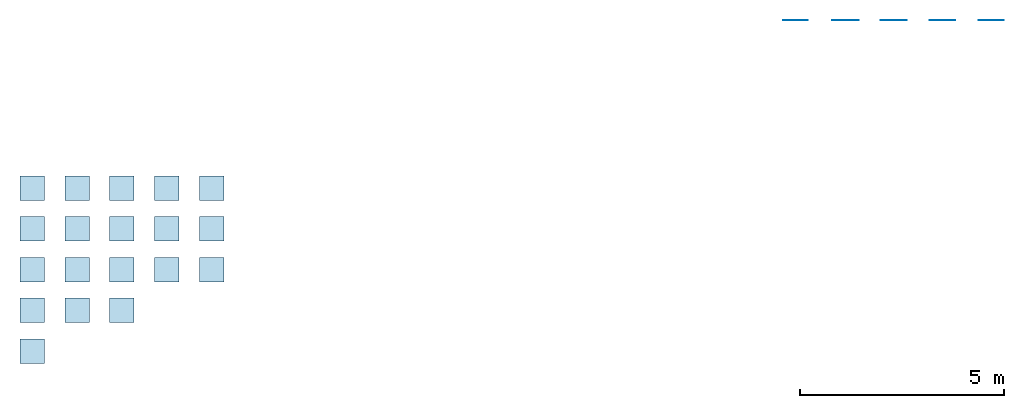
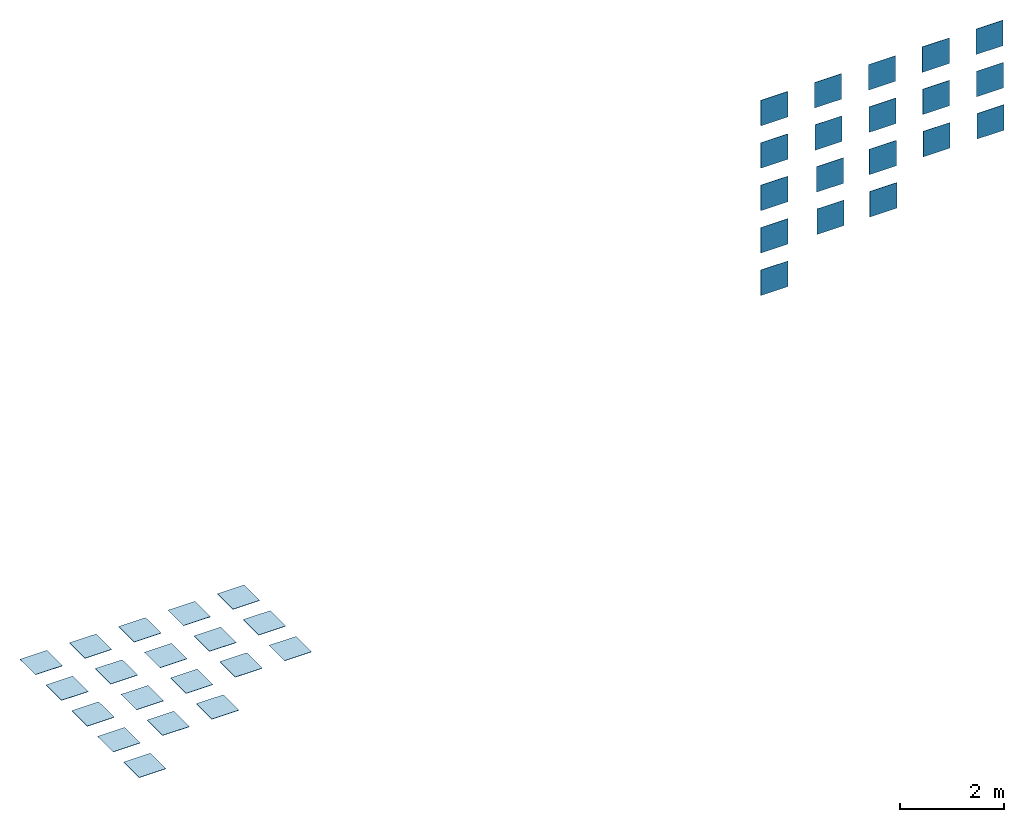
# One storey: 19 slabs, 19 walls.
"""IFC2X3 building model written with IfcOpenShell, lengths in metres."""

import ifcopenshell
import ifcopenshell.guid

model = None  # the IFC model being written
_history = None  # IfcOwnerHistory: only IFC2X3 demands one
_inside = {}  # id of a spatial element -> (the spatial element, [elements in it])
_under = {}  # id of a project, library or spatial element -> (it, [spatial elements below it])
_declared = {}  # id of a project -> (the project, [libraries it declares])
_typed = {}  # id of a type object -> (the type object, [elements of that type])
_made_of = {}  # id of a material, layer set ... -> (it, [elements and type objects made of it])


def new_model(schema):
    """Start an empty IFC model of exactly this schema.

    Asked for "IFC4X3", IfcOpenShell would pick the latest addendum, in which some entities
    have other attributes; the version numbers below select the first issue.
    IFC2X3 requires an IfcOwnerHistory on every rooted entity: one is made here for all.
    """
    global model, _history
    if schema == "IFC4X3":
        model = ifcopenshell.file(schema_version=(4, 3, 0, 0))
    else:
        model = ifcopenshell.file(schema=schema)
    _inside.clear()
    _under.clear()
    _declared.clear()
    _typed.clear()
    _made_of.clear()
    _history = None
    if model.schema == "IFC2X3":
        org = make("IfcOrganization", Name="unknown")
        user = make(
            "IfcPersonAndOrganization",
            ThePerson=make("IfcPerson", FamilyName="unknown"),
            TheOrganization=org,
        )
        app = make(
            "IfcApplication",
            ApplicationDeveloper=org,
            Version="unknown",
            ApplicationFullName="unknown",
            ApplicationIdentifier="unknown",
        )
        _history = make(
            "IfcOwnerHistory",
            OwningUser=user,
            OwningApplication=app,
            ChangeAction="ADDED",
            CreationDate=0,
        )
    return model


def make(cls, **values):
    """One entity of the class cls with the attributes given. An attribute that is None is left unset."""
    return model.create_entity(
        cls, **{name: value for name, value in values.items() if value is not None}
    )


def entity(cls, *values):
    """Any entity or typed value of the class cls, its attributes in the order of the schema. None: left unset."""
    e = model.create_entity(cls)
    for i, value in enumerate(values):
        if value is not None:
            e[i] = value
    return e


def rooted(cls, **values):
    """An entity with a GlobalId (a new one), such as an element, a storey or a relation."""
    return make(cls, GlobalId=ifcopenshell.guid.new(), OwnerHistory=_history, **values)


def si_unit(unit_type, name, prefix=None):
    """IfcSIUnit, for example si_unit("LENGTHUNIT", "METRE", prefix="MILLI")."""
    return make("IfcSIUnit", UnitType=unit_type, Prefix=prefix, Name=name)


def converted_unit(unit_type, name, factor, base, dimensions=None, offset=None):
    """IfcConversionBasedUnit, such as the inch: factor (a typed value) times the base unit."""
    return make(
        "IfcConversionBasedUnit"
        if offset is None
        else "IfcConversionBasedUnitWithOffset",
        ConversionOffset=offset,
        Dimensions=None
        if dimensions is None
        else entity("IfcDimensionalExponents", *dimensions),
        UnitType=unit_type,
        Name=name,
        ConversionFactor=make(
            "IfcMeasureWithUnit", ValueComponent=factor, UnitComponent=base
        ),
    )


def derived_unit(unit_type, elements):
    """IfcDerivedUnit: a product of units, each with its exponent."""
    return make(
        "IfcDerivedUnit",
        Elements=[
            make("IfcDerivedUnitElement", Unit=unit, Exponent=power)
            for unit, power in elements
        ],
        UnitType=unit_type,
    )


def assignment(units):
    """IfcUnitAssignment: the units of a project."""
    return None if units is None else make("IfcUnitAssignment", Units=units)


def point(xyz):
    """IfcCartesianPoint."""
    return None if xyz is None else make("IfcCartesianPoint", Coordinates=xyz)


def direction(xyz):
    """IfcDirection."""
    return None if xyz is None else make("IfcDirection", DirectionRatios=xyz)


def frame(location, z_axis=None, x_axis=None):
    """IfcAxis2Placement3D, a coordinate frame: its origin and axes. An axis left out is left unset."""
    return make(
        "IfcAxis2Placement3D",
        Location=point(location),
        Axis=direction(z_axis),
        RefDirection=direction(x_axis),
    )


def frame_2d(location, x_axis=None):
    """IfcAxis2Placement2D, a coordinate frame in the plane: its origin and x axis."""
    return make(
        "IfcAxis2Placement2D", Location=point(location), RefDirection=direction(x_axis)
    )


def origin():
    """The frame at (0, 0, 0) with its axes left unset."""
    return frame((0.0, 0.0, 0.0))


def origin_2d_with_axis():
    """The frame at (0, 0) in the plane with the x axis (1, 0) written out."""
    return frame_2d((0.0, 0.0), x_axis=(1.0, 0.0))


def place(relative_to, where):
    """IfcLocalPlacement: puts the frame where relative to a parent placement (None: the world)."""
    return make(
        "IfcLocalPlacement", PlacementRelTo=relative_to, RelativePlacement=where
    )


def context(
    kind, dimensions, precision=None, world=None, true_north=None, identifier=None
):
    """IfcGeometricRepresentationContext, for example the 3D "Model" context."""
    return make(
        "IfcGeometricRepresentationContext",
        ContextIdentifier=identifier,
        ContextType=kind,
        CoordinateSpaceDimension=dimensions,
        Precision=precision,
        WorldCoordinateSystem=world,
        TrueNorth=true_north,
    )


def subcontext(parent, identifier, kind, view, scale=None):
    """IfcGeometricRepresentationSubContext, for example "Body" below "Model"."""
    return make(
        "IfcGeometricRepresentationSubContext",
        ContextIdentifier=identifier,
        ContextType=kind,
        ParentContext=parent,
        TargetScale=scale,
        TargetView=view,
    )


def project(units=None, contexts=None):
    """IfcProject with its units and contexts."""
    return rooted(
        "IfcProject",
        Name="project",
        RepresentationContexts=contexts,
        UnitsInContext=assignment(units),
    )


def spatial(cls, under=None, at=None, **own):
    """A site, building, storey or space (cls), placed at a placement, below another one or the project."""
    s = rooted(cls, ObjectPlacement=at, **own)
    if under is not None:
        _under.setdefault(under.id(), (under, []))[1].append(s)
    return s


def profile(cls, at=None, kind="AREA", **sizes):
    """A parametric profile (cls). Its sizes go by their IFC names, for example OverallWidth=200.0."""
    return make(cls, ProfileType=kind, Position=at, **sizes)


def rectangle(**sizes):
    """IfcRectangleProfileDef."""
    return profile("IfcRectangleProfileDef", **sizes)


def extrude(swept, where, along, depth):
    """IfcExtrudedAreaSolid: the profile swept, set in the frame where, extruded along a direction by depth."""
    return make(
        "IfcExtrudedAreaSolid",
        SweptArea=swept,
        Position=where,
        ExtrudedDirection=direction(along),
        Depth=depth,
    )


def shape(context_of_items, identifier, shape_type, items):
    """IfcShapeRepresentation: the items that make up one representation, for example the "Body"."""
    return make(
        "IfcShapeRepresentation",
        ContextOfItems=context_of_items,
        RepresentationIdentifier=identifier,
        RepresentationType=shape_type,
        Items=items,
    )


def material(Name=None, Category=None):
    """IfcMaterial."""
    return make("IfcMaterial", Name=Name, Category=Category)


def layer(
    of_material, thickness, ventilated=None, Name=None, Category=None, Priority=None
):
    """IfcMaterialLayer: one layer of a wall or slab, of a material (None: an air gap)."""
    return make(
        "IfcMaterialLayer",
        Material=of_material,
        LayerThickness=thickness,
        IsVentilated=ventilated,
        Name=Name,
        Category=Category,
        Priority=Priority,
    )


def layer_set(layers, Name=None):
    """IfcMaterialLayerSet."""
    return make("IfcMaterialLayerSet", MaterialLayers=layers, LayerSetName=Name)


def layer_usage(for_layer_set, set_direction, sense, offset, extent=None):
    """IfcMaterialLayerSetUsage: how a layer set lies in its element."""
    return make(
        "IfcMaterialLayerSetUsage",
        ForLayerSet=for_layer_set,
        LayerSetDirection=set_direction,
        DirectionSense=sense,
        OffsetFromReferenceLine=offset,
        ReferenceExtent=extent,
    )


def made_of(thing, what):
    """Note that an element or type object is made of a material, layer set ...; save() writes the relation."""
    if what is not None:
        _made_of.setdefault(what.id(), (what, []))[1].append(thing)
    return thing


def type_object(cls, material=None, **own):
    """A type object (cls), such as IfcWallType, which elements share."""
    return made_of(rooted(cls, **own), material)


def element(
    cls,
    number,
    at=None,
    inside=None,
    cuts=None,
    type_object=None,
    material=None,
    context=None,
    identifier="Body",
    shape_type=None,
    held_by="IfcProductDefinitionShape",
    body=None,
    shapes=None,
    **own,
):
    """One element of the class cls, such as IfcWall. Its Tag is "e" and its number.

    at: its placement. inside: the storey or other place that contains it. cuts: it is an
    opening in that element (IfcRelVoidsElement). A single representation is given by context,
    identifier, shape_type and body (its items); several are given by shapes. held_by: the class
    of the entity that holds the representations. save() writes the other relations.
    """
    e = rooted(cls, Tag="e%d" % number, ObjectPlacement=at, **own)
    if body is not None:
        shapes = [shape(context, identifier, shape_type, body)]
    if shapes is not None:
        e.Representation = make(held_by, Representations=shapes)
    if inside is not None:
        _inside.setdefault(inside.id(), (inside, []))[1].append(e)
    if cuts is not None:
        rooted(
            "IfcRelVoidsElement", RelatingBuildingElement=cuts, RelatedOpeningElement=e
        )
    if type_object is not None:
        _typed.setdefault(type_object.id(), (type_object, []))[1].append(e)
    return made_of(e, material)


def aggregate(whole, parts):
    """IfcRelAggregates: a whole, such as a stair, and the parts it consists of."""
    return rooted("IfcRelAggregates", RelatingObject=whole, RelatedObjects=parts)


def save(model, path):
    """Write the relations noted so far, then the file.

    IfcRelAggregates (storeys below a building ...), IfcRelContainedInSpatialStructure (elements
    in a storey), IfcRelDefinesByType, IfcRelAssociatesMaterial and IfcRelDeclares: one each for
    every whole, place, type object, material and project.
    """
    for whole, parts in _under.values():
        aggregate(whole, parts)
    for where, things in _inside.values():
        rooted(
            "IfcRelContainedInSpatialStructure",
            RelatedElements=things,
            RelatingStructure=where,
        )
    for kind, things in _typed.values():
        rooted("IfcRelDefinesByType", RelatedObjects=things, RelatingType=kind)
    for what, things in _made_of.values():
        rooted("IfcRelAssociatesMaterial", RelatedObjects=things, RelatingMaterial=what)
    for by, libraries in _declared.values():
        rooted("IfcRelDeclares", RelatingContext=by, RelatedDefinitions=libraries)
    model.write(path)


model = new_model("IFC2X3")

# Units and contexts
model_context = context("Model", 3, precision=1e-05, world=origin(), true_north=direction((6.12303176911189e-17, 1.0)))
body_context = subcontext(model_context, "Body", "Model", "MODEL_VIEW")
ifc_project = project(units=[si_unit("LENGTHUNIT", "METRE"), si_unit("AREAUNIT", "SQUARE_METRE"), si_unit("VOLUMEUNIT", "CUBIC_METRE"), converted_unit("PLANEANGLEUNIT", "DEGREE", entity("IfcRatioMeasure", 0.0174532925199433), si_unit("PLANEANGLEUNIT", "RADIAN"), dimensions=[0, 0, 0, 0, 0, 0, 0]), si_unit("MASSUNIT", "GRAM", prefix="KILO"), si_unit("TIMEUNIT", "SECOND"), si_unit("FREQUENCYUNIT", "HERTZ"), si_unit("THERMODYNAMICTEMPERATUREUNIT", "DEGREE_CELSIUS"), derived_unit("THERMALTRANSMITTANCEUNIT", [(si_unit("MASSUNIT", "GRAM", prefix="KILO"), 1), (si_unit("THERMODYNAMICTEMPERATUREUNIT", "KELVIN"), -1), (si_unit("TIMEUNIT", "SECOND"), -3)]), derived_unit("VOLUMETRICFLOWRATEUNIT", [(si_unit("LENGTHUNIT", "METRE"), 3), (si_unit("TIMEUNIT", "SECOND"), -1)]), si_unit("ELECTRICCURRENTUNIT", "AMPERE"), si_unit("ELECTRICVOLTAGEUNIT", "VOLT"), si_unit("POWERUNIT", "WATT"), si_unit("FORCEUNIT", "NEWTON", prefix="KILO"), si_unit("ILLUMINANCEUNIT", "LUX"), si_unit("LUMINOUSFLUXUNIT", "LUMEN"), si_unit("LUMINOUSINTENSITYUNIT", "CANDELA"), derived_unit("USERDEFINED", [(si_unit("MASSUNIT", "GRAM", prefix="KILO"), -1), (si_unit("LENGTHUNIT", "METRE"), -2), (si_unit("TIMEUNIT", "SECOND"), 3), (si_unit("LUMINOUSFLUXUNIT", "LUMEN"), 1)]), derived_unit("LINEARVELOCITYUNIT", [(si_unit("LENGTHUNIT", "METRE"), 1), (si_unit("TIMEUNIT", "SECOND"), -1)]), si_unit("PRESSUREUNIT", "PASCAL"), derived_unit("USERDEFINED", [(si_unit("LENGTHUNIT", "METRE"), -2), (si_unit("MASSUNIT", "GRAM", prefix="KILO"), 1), (si_unit("TIMEUNIT", "SECOND"), -2)])], contexts=[model_context])

# Site, building, storey
site_placement = place(None, origin())
site = spatial("IfcSite", under=ifc_project, at=site_placement, Name="Default", CompositionType="ELEMENT")
building_placement = place(site_placement, origin())
building = spatial("IfcBuilding", under=site, at=building_placement, CompositionType="ELEMENT")
storey_placement = place(building_placement, origin())
storey = spatial("IfcBuildingStorey", under=building, at=storey_placement, Name="MAORI FLOOR TILES", CompositionType="ELEMENT", Elevation=0.0)

# Slabs
ifc_material_1 = material(Name="VIVES LADAKHI GRIS 20x20")
ifc_layer_1 = layer(ifc_material_1, 0.008)
ifc_layer_set_1 = layer_set([ifc_layer_1], Name="Suelo:VIVES LADAKHI GRIS 20x20")
ifc_layer_usage_1 = layer_usage(ifc_layer_set_1, "AXIS3", "POSITIVE", 0.0)
slab_1_placement = place(storey_placement, origin())
element("IfcSlab", 1, at=slab_1_placement, inside=storey, material=ifc_layer_usage_1, Name="Suelo:VIVES LADAKHI GRIS 20x20", ObjectType="Suelo:VIVES LADAKHI GRIS 20x20", PredefinedType="FLOOR", context=body_context, shape_type="SweptSolid", body=[
    extrude(rectangle(XDim=0.6, YDim=0.6, at=origin_2d_with_axis()), frame((-1.89767402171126, -3.50495505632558, 0.0), z_axis=(0.0, 0.0, -1.0), x_axis=(0.0, 1.0, 0.0)), (0.0, 0.0, 1.0), 0.008),
])
ifc_material_2 = material(Name="VIVES LADAKHI CIELO 20x20")
ifc_layer_2 = layer(ifc_material_2, 0.008)
ifc_layer_set_2 = layer_set([ifc_layer_2], Name="Suelo:VIVES LADAKHI CIELO 20x20")
ifc_layer_usage_2 = layer_usage(ifc_layer_set_2, "AXIS3", "POSITIVE", 0.0)
slab_2_placement = place(storey_placement, origin())
element("IfcSlab", 2, at=slab_2_placement, inside=storey, material=ifc_layer_usage_2, Name="Suelo:VIVES LADAKHI CIELO 20x20", ObjectType="Suelo:VIVES LADAKHI CIELO 20x20", PredefinedType="FLOOR", context=body_context, shape_type="SweptSolid", body=[
    extrude(rectangle(XDim=0.6, YDim=0.6, at=origin_2d_with_axis()), frame((-0.797674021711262, -3.50495505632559, 0.0), z_axis=(0.0, 0.0, -1.0), x_axis=(0.0, 1.0, 0.0)), (0.0, 0.0, 1.0), 0.008),
])
ifc_material_3 = material(Name="VIVES LADAKHI MUSGO 20x20")
ifc_layer_3 = layer(ifc_material_3, 0.008)
ifc_layer_set_3 = layer_set([ifc_layer_3], Name="Suelo:VIVES LADAKHI MUSGO 20x20")
ifc_layer_usage_3 = layer_usage(ifc_layer_set_3, "AXIS3", "POSITIVE", 0.0)
slab_3_placement = place(storey_placement, origin())
element("IfcSlab", 3, at=slab_3_placement, inside=storey, material=ifc_layer_usage_3, Name="Suelo:VIVES LADAKHI MUSGO 20x20", ObjectType="Suelo:VIVES LADAKHI MUSGO 20x20", PredefinedType="FLOOR", context=body_context, shape_type="SweptSolid", body=[
    extrude(rectangle(XDim=0.6, YDim=0.6, at=origin_2d_with_axis()), frame((0.302325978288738, -3.50495505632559, 0.0), z_axis=(0.0, 0.0, -1.0), x_axis=(0.0, 1.0, 0.0)), (0.0, 0.0, 1.0), 0.008),
])
ifc_material_4 = material(Name="VIVES LADAKHI OCRE 20x20")
ifc_layer_4 = layer(ifc_material_4, 0.008)
ifc_layer_set_4 = layer_set([ifc_layer_4], Name="Suelo:VIVES LADAKHI OCRE 20x20")
ifc_layer_usage_4 = layer_usage(ifc_layer_set_4, "AXIS3", "POSITIVE", 0.0)
slab_4_placement = place(storey_placement, origin())
element("IfcSlab", 4, at=slab_4_placement, inside=storey, material=ifc_layer_usage_4, Name="Suelo:VIVES LADAKHI OCRE 20x20", ObjectType="Suelo:VIVES LADAKHI OCRE 20x20", PredefinedType="FLOOR", context=body_context, shape_type="SweptSolid", body=[
    extrude(rectangle(XDim=0.6, YDim=0.6, at=origin_2d_with_axis()), frame((1.40232597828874, -3.50495505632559, 0.0), z_axis=(0.0, 0.0, -1.0), x_axis=(0.0, 1.0, 0.0)), (0.0, 0.0, 1.0), 0.008),
])
ifc_material_5 = material(Name="VIVES LADAKHI GRAFITO 20x20")
ifc_layer_5 = layer(ifc_material_5, 0.008)
ifc_layer_set_5 = layer_set([ifc_layer_5], Name="Suelo:VIVES LADAKHI GRAFITO 20x20")
ifc_layer_usage_5 = layer_usage(ifc_layer_set_5, "AXIS3", "POSITIVE", 0.0)
slab_5_placement = place(storey_placement, origin())
element("IfcSlab", 5, at=slab_5_placement, inside=storey, material=ifc_layer_usage_5, Name="Suelo:VIVES LADAKHI GRAFITO 20x20", ObjectType="Suelo:VIVES LADAKHI GRAFITO 20x20", PredefinedType="FLOOR", context=body_context, shape_type="SweptSolid", body=[
    extrude(rectangle(XDim=0.6, YDim=0.6, at=origin_2d_with_axis()), frame((2.50232597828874, -3.5049550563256, 0.0), z_axis=(0.0, 0.0, -1.0), x_axis=(0.0, 1.0, 0.0)), (0.0, 0.0, 1.0), 0.008),
])
ifc_material_6 = material(Name="VIVES GOROKA GRIS 20x20")
ifc_layer_6 = layer(ifc_material_6, 0.008)
ifc_layer_set_6 = layer_set([ifc_layer_6], Name="Suelo:VIVES GOROKA GRIS 20x20")
ifc_layer_usage_6 = layer_usage(ifc_layer_set_6, "AXIS3", "POSITIVE", 0.0)
slab_6_placement = place(storey_placement, origin())
element("IfcSlab", 6, at=slab_6_placement, inside=storey, material=ifc_layer_usage_6, Name="Suelo:VIVES GOROKA GRIS 20x20", ObjectType="Suelo:VIVES GOROKA GRIS 20x20", PredefinedType="FLOOR", context=body_context, shape_type="SweptSolid", body=[
    extrude(rectangle(XDim=0.6, YDim=0.6, at=origin_2d_with_axis()), frame((-1.89767402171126, -4.50495505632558, 0.0), z_axis=(0.0, 0.0, -1.0), x_axis=(0.0, 1.0, 0.0)), (0.0, 0.0, 1.0), 0.008),
])
ifc_material_7 = material(Name="VIVES GOROKA CIELO 20x20")
ifc_layer_7 = layer(ifc_material_7, 0.008)
ifc_layer_set_7 = layer_set([ifc_layer_7], Name="Suelo:VIVES GOROKA CIELO 20x20")
ifc_layer_usage_7 = layer_usage(ifc_layer_set_7, "AXIS3", "POSITIVE", 0.0)
slab_7_placement = place(storey_placement, origin())
element("IfcSlab", 7, at=slab_7_placement, inside=storey, material=ifc_layer_usage_7, Name="Suelo:VIVES GOROKA CIELO 20x20", ObjectType="Suelo:VIVES GOROKA CIELO 20x20", PredefinedType="FLOOR", context=body_context, shape_type="SweptSolid", body=[
    extrude(rectangle(XDim=0.6, YDim=0.6, at=origin_2d_with_axis()), frame((-0.797674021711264, -4.50495505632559, 0.0), z_axis=(0.0, 0.0, -1.0), x_axis=(0.0, 1.0, 0.0)), (0.0, 0.0, 1.0), 0.008),
])
ifc_material_8 = material(Name="VIVES GOROKA MUSGO 20x20")
ifc_layer_8 = layer(ifc_material_8, 0.008)
ifc_layer_set_8 = layer_set([ifc_layer_8], Name="Suelo:VIVES GOROKA MUSGO 20x20")
ifc_layer_usage_8 = layer_usage(ifc_layer_set_8, "AXIS3", "POSITIVE", 0.0)
slab_8_placement = place(storey_placement, origin())
element("IfcSlab", 8, at=slab_8_placement, inside=storey, material=ifc_layer_usage_8, Name="Suelo:VIVES GOROKA MUSGO 20x20", ObjectType="Suelo:VIVES GOROKA MUSGO 20x20", PredefinedType="FLOOR", context=body_context, shape_type="SweptSolid", body=[
    extrude(rectangle(XDim=0.6, YDim=0.6, at=origin_2d_with_axis()), frame((0.302325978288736, -4.50495505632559, 0.0), z_axis=(0.0, 0.0, -1.0), x_axis=(0.0, 1.0, 0.0)), (0.0, 0.0, 1.0), 0.008),
])
ifc_material_9 = material(Name="VIVES GOROKA OCRE 20x20")
ifc_layer_9 = layer(ifc_material_9, 0.008)
ifc_layer_set_9 = layer_set([ifc_layer_9], Name="Suelo:VIVES GOROKA OCRE 20x20")
ifc_layer_usage_9 = layer_usage(ifc_layer_set_9, "AXIS3", "POSITIVE", 0.0)
slab_9_placement = place(storey_placement, origin())
element("IfcSlab", 9, at=slab_9_placement, inside=storey, material=ifc_layer_usage_9, Name="Suelo:VIVES GOROKA OCRE 20x20", ObjectType="Suelo:VIVES GOROKA OCRE 20x20", PredefinedType="FLOOR", context=body_context, shape_type="SweptSolid", body=[
    extrude(rectangle(XDim=0.6, YDim=0.6, at=origin_2d_with_axis()), frame((1.40232597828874, -4.50495505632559, 0.0), z_axis=(0.0, 0.0, -1.0), x_axis=(0.0, 1.0, 0.0)), (0.0, 0.0, 1.0), 0.008),
])
ifc_material_10 = material(Name="VIVES GOROKA GRAFITO 20x20")
ifc_layer_10 = layer(ifc_material_10, 0.008)
ifc_layer_set_10 = layer_set([ifc_layer_10], Name="Suelo:VIVES GOROKA GRAFITO 20x20")
ifc_layer_usage_10 = layer_usage(ifc_layer_set_10, "AXIS3", "POSITIVE", 0.0)
slab_10_placement = place(storey_placement, origin())
element("IfcSlab", 10, at=slab_10_placement, inside=storey, material=ifc_layer_usage_10, Name="Suelo:VIVES GOROKA GRAFITO 20x20", ObjectType="Suelo:VIVES GOROKA GRAFITO 20x20", PredefinedType="FLOOR", context=body_context, shape_type="SweptSolid", body=[
    extrude(rectangle(XDim=0.6, YDim=0.6, at=origin_2d_with_axis()), frame((2.50232597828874, -4.5049550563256, 0.0), z_axis=(0.0, 0.0, -1.0), x_axis=(0.0, 1.0, 0.0)), (0.0, 0.0, 1.0), 0.008),
])
ifc_material_11 = material(Name="VIVES VODEVIL HUMO 20x20")
ifc_layer_11 = layer(ifc_material_11, 0.008)
ifc_layer_set_11 = layer_set([ifc_layer_11], Name="Suelo:VIVES VODEVIL HUMO 20x20")
ifc_layer_usage_11 = layer_usage(ifc_layer_set_11, "AXIS3", "POSITIVE", 0.0)
slab_11_placement = place(storey_placement, origin())
element("IfcSlab", 11, at=slab_11_placement, inside=storey, material=ifc_layer_usage_11, Name="Suelo:VIVES VODEVIL HUMO 20x20", ObjectType="Suelo:VIVES VODEVIL HUMO 20x20", PredefinedType="FLOOR", context=body_context, shape_type="SweptSolid", body=[
    extrude(rectangle(XDim=0.6, YDim=0.6, at=origin_2d_with_axis()), frame((-1.89767402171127, -5.50495505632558, 0.0), z_axis=(0.0, 0.0, -1.0), x_axis=(0.0, 1.0, 0.0)), (0.0, 0.0, 1.0), 0.008),
])
ifc_material_12 = material(Name="VIVES VODEVIL NUBE 20x20")
ifc_layer_12 = layer(ifc_material_12, 0.008)
ifc_layer_set_12 = layer_set([ifc_layer_12], Name="Suelo:VIVES VODEVIL NUBE 20x20")
ifc_layer_usage_12 = layer_usage(ifc_layer_set_12, "AXIS3", "POSITIVE", 0.0)
slab_12_placement = place(storey_placement, origin())
element("IfcSlab", 12, at=slab_12_placement, inside=storey, material=ifc_layer_usage_12, Name="Suelo:VIVES VODEVIL NUBE 20x20", ObjectType="Suelo:VIVES VODEVIL NUBE 20x20", PredefinedType="FLOOR", context=body_context, shape_type="SweptSolid", body=[
    extrude(rectangle(XDim=0.6, YDim=0.6, at=origin_2d_with_axis()), frame((-0.797674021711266, -5.50495505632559, 0.0), z_axis=(0.0, 0.0, -1.0), x_axis=(0.0, 1.0, 0.0)), (0.0, 0.0, 1.0), 0.008),
])
ifc_material_13 = material(Name="VIVES VODEVIL OLIVA 20x20")
ifc_layer_13 = layer(ifc_material_13, 0.008)
ifc_layer_set_13 = layer_set([ifc_layer_13], Name="Suelo:VIVES VODEVIL OLIVA 20x20")
ifc_layer_usage_13 = layer_usage(ifc_layer_set_13, "AXIS3", "POSITIVE", 0.0)
slab_13_placement = place(storey_placement, origin())
element("IfcSlab", 13, at=slab_13_placement, inside=storey, material=ifc_layer_usage_13, Name="Suelo:VIVES VODEVIL OLIVA 20x20", ObjectType="Suelo:VIVES VODEVIL OLIVA 20x20", PredefinedType="FLOOR", context=body_context, shape_type="SweptSolid", body=[
    extrude(rectangle(XDim=0.6, YDim=0.6, at=origin_2d_with_axis()), frame((0.302325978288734, -5.50495505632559, 0.0), z_axis=(0.0, 0.0, -1.0), x_axis=(0.0, 1.0, 0.0)), (0.0, 0.0, 1.0), 0.008),
])
ifc_material_14 = material(Name="VIVES VODEVIL BEIGE 20x20")
ifc_layer_14 = layer(ifc_material_14, 0.008)
ifc_layer_set_14 = layer_set([ifc_layer_14], Name="Suelo:VIVES VODEVIL BEIGE 20x20")
ifc_layer_usage_14 = layer_usage(ifc_layer_set_14, "AXIS3", "POSITIVE", 0.0)
slab_14_placement = place(storey_placement, origin())
element("IfcSlab", 14, at=slab_14_placement, inside=storey, material=ifc_layer_usage_14, Name="Suelo:VIVES VODEVIL BEIGE 20x20", ObjectType="Suelo:VIVES VODEVIL BEIGE 20x20", PredefinedType="FLOOR", context=body_context, shape_type="SweptSolid", body=[
    extrude(rectangle(XDim=0.6, YDim=0.6, at=origin_2d_with_axis()), frame((1.40232597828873, -5.50495505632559, 0.0), z_axis=(0.0, 0.0, -1.0), x_axis=(0.0, 1.0, 0.0)), (0.0, 0.0, 1.0), 0.008),
])
ifc_material_15 = material(Name="VIVES VODEVIL ANTRACITA 20x20")
ifc_layer_15 = layer(ifc_material_15, 0.008)
ifc_layer_set_15 = layer_set([ifc_layer_15], Name="Suelo:VIVES VODEVIL ANTRACITA 20x20")
ifc_layer_usage_15 = layer_usage(ifc_layer_set_15, "AXIS3", "POSITIVE", 0.0)
slab_15_placement = place(storey_placement, origin())
element("IfcSlab", 15, at=slab_15_placement, inside=storey, material=ifc_layer_usage_15, Name="Suelo:VIVES VODEVIL ANTRACITA 20x20", ObjectType="Suelo:VIVES VODEVIL ANTRACITA 20x20", PredefinedType="FLOOR", context=body_context, shape_type="SweptSolid", body=[
    extrude(rectangle(XDim=0.6, YDim=0.6, at=origin_2d_with_axis()), frame((2.50232597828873, -5.5049550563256, 0.0), z_axis=(0.0, 0.0, -1.0), x_axis=(0.0, 1.0, 0.0)), (0.0, 0.0, 1.0), 0.008),
])
ifc_material_16 = material(Name="VIVES BANNA 20x20")
ifc_layer_16 = layer(ifc_material_16, 0.008)
ifc_layer_set_16 = layer_set([ifc_layer_16], Name="Suelo:VIVES BANNA 20x20")
ifc_layer_usage_16 = layer_usage(ifc_layer_set_16, "AXIS3", "POSITIVE", 0.0)
slab_16_placement = place(storey_placement, origin())
element("IfcSlab", 16, at=slab_16_placement, inside=storey, material=ifc_layer_usage_16, Name="Suelo:VIVES BANNA 20x20", ObjectType="Suelo:VIVES BANNA 20x20", PredefinedType="FLOOR", context=body_context, shape_type="SweptSolid", body=[
    extrude(rectangle(XDim=0.6, YDim=0.6, at=origin_2d_with_axis()), frame((-1.89767402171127, -6.50495505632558, 0.0), z_axis=(0.0, 0.0, -1.0), x_axis=(0.0, 1.0, 0.0)), (0.0, 0.0, 1.0), 0.008),
])
ifc_material_17 = material(Name="VIVES HAMAR 20x20")
ifc_layer_17 = layer(ifc_material_17, 0.008)
ifc_layer_set_17 = layer_set([ifc_layer_17], Name="Suelo:VIVES HAMAR 20x20")
ifc_layer_usage_17 = layer_usage(ifc_layer_set_17, "AXIS3", "POSITIVE", 0.0)
slab_17_placement = place(storey_placement, origin())
element("IfcSlab", 17, at=slab_17_placement, inside=storey, material=ifc_layer_usage_17, Name="Suelo:VIVES HAMAR 20x20", ObjectType="Suelo:VIVES HAMAR 20x20", PredefinedType="FLOOR", context=body_context, shape_type="SweptSolid", body=[
    extrude(rectangle(XDim=0.6, YDim=0.6, at=origin_2d_with_axis()), frame((-0.797674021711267, -6.50495505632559, 0.0), z_axis=(0.0, 0.0, -1.0), x_axis=(0.0, 1.0, 0.0)), (0.0, 0.0, 1.0), 0.008),
])
ifc_material_18 = material(Name="VIVES VANUATU 20x20")
ifc_layer_18 = layer(ifc_material_18, 0.008)
ifc_layer_set_18 = layer_set([ifc_layer_18], Name="Suelo:VIVES VANUATU 20x20")
ifc_layer_usage_18 = layer_usage(ifc_layer_set_18, "AXIS3", "POSITIVE", 0.0)
slab_18_placement = place(storey_placement, origin())
element("IfcSlab", 18, at=slab_18_placement, inside=storey, material=ifc_layer_usage_18, Name="Suelo:VIVES VANUATU 20x20", ObjectType="Suelo:VIVES VANUATU 20x20", PredefinedType="FLOOR", context=body_context, shape_type="SweptSolid", body=[
    extrude(rectangle(XDim=0.6, YDim=0.6, at=origin_2d_with_axis()), frame((0.302325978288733, -6.50495505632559, 0.0), z_axis=(0.0, 0.0, -1.0), x_axis=(0.0, 1.0, 0.0)), (0.0, 0.0, 1.0), 0.008),
])
ifc_material_19 = material(Name="VIVES TIEBELE 20x20")
ifc_layer_19 = layer(ifc_material_19, 0.008)
ifc_layer_set_19 = layer_set([ifc_layer_19], Name="Suelo:VIVES TIEBELE 20x20")
ifc_layer_usage_19 = layer_usage(ifc_layer_set_19, "AXIS3", "POSITIVE", 0.0)
slab_19_placement = place(storey_placement, origin())
element("IfcSlab", 19, at=slab_19_placement, inside=storey, material=ifc_layer_usage_19, Name="Suelo:VIVES TIEBELE 20x20", ObjectType="Suelo:VIVES TIEBELE 20x20", PredefinedType="FLOOR", context=body_context, shape_type="SweptSolid", body=[
    extrude(rectangle(XDim=0.6, YDim=0.6, at=frame_2d((-1.08246744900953e-15, 0.0), x_axis=(1.0, 0.0))), frame((-1.89767402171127, -7.50495505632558, 0.0), z_axis=(0.0, 0.0, -1.0), x_axis=(0.0, 1.0, 0.0)), (0.0, 0.0, 1.0), 0.008),
])

# Walls
ifc_layer_20 = layer(ifc_material_1, 0.008)
ifc_layer_set_20 = layer_set([ifc_layer_20], Name="Muro básico:VIVES LADAKHI GRIS 20x20")
ifc_layer_usage_20 = layer_usage(ifc_layer_set_20, "AXIS2", "NEGATIVE", 0.004)
wall_type_1 = type_object("IfcWallType", Name="Muro básico:VIVES LADAKHI GRIS 20x20", PredefinedType="STANDARD", material=ifc_layer_set_20)
wall_1_placement = place(storey_placement, frame((16.5278886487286, 0.618172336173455, 3.7)))
element("IfcWallStandardCase", 20, at=wall_1_placement, inside=storey, type_object=wall_type_1, material=ifc_layer_usage_20, Name="Muro básico:VIVES LADAKHI GRIS 20x20", ObjectType="Muro básico:VIVES LADAKHI GRIS 20x20", context=body_context, shape_type="SweptSolid", body=[
    extrude(rectangle(XDim=0.6, YDim=0.00800000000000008, at=frame_2d((0.3, -8.67361737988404e-18), x_axis=(-1.0, 0.0))), origin(), (0.0, 0.0, 1.0), 0.6),
])
ifc_layer_21 = layer(ifc_material_2, 0.008)
ifc_layer_set_21 = layer_set([ifc_layer_21], Name="Muro básico:VIVES LADAKHI CIELO 20x20")
ifc_layer_usage_21 = layer_usage(ifc_layer_set_21, "AXIS2", "NEGATIVE", 0.004)
wall_type_2 = type_object("IfcWallType", Name="Muro básico:VIVES LADAKHI CIELO 20x20", PredefinedType="STANDARD", material=ifc_layer_set_21)
wall_2_placement = place(storey_placement, frame((17.7278886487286, 0.618172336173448, 3.7)))
element("IfcWallStandardCase", 21, at=wall_2_placement, inside=storey, type_object=wall_type_2, material=ifc_layer_usage_21, Name="Muro básico:VIVES LADAKHI CIELO 20x20", ObjectType="Muro básico:VIVES LADAKHI CIELO 20x20", context=body_context, shape_type="SweptSolid", body=[
    extrude(rectangle(XDim=0.6, YDim=0.00800000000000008, at=frame_2d((0.3, -8.67361737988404e-18), x_axis=(-1.0, 0.0))), origin(), (0.0, 0.0, 1.0), 0.6),
])
ifc_layer_22 = layer(ifc_material_3, 0.008)
ifc_layer_set_22 = layer_set([ifc_layer_22], Name="Muro básico:VIVES LADAKHI MUSGO 20x20")
ifc_layer_usage_22 = layer_usage(ifc_layer_set_22, "AXIS2", "NEGATIVE", 0.004)
wall_type_3 = type_object("IfcWallType", Name="Muro básico:VIVES LADAKHI MUSGO 20x20", PredefinedType="STANDARD", material=ifc_layer_set_22)
wall_3_placement = place(storey_placement, frame((18.9278886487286, 0.618172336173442, 3.7)))
element("IfcWallStandardCase", 22, at=wall_3_placement, inside=storey, type_object=wall_type_3, material=ifc_layer_usage_22, Name="Muro básico:VIVES LADAKHI MUSGO 20x20", ObjectType="Muro básico:VIVES LADAKHI MUSGO 20x20", context=body_context, shape_type="SweptSolid", body=[
    extrude(rectangle(XDim=0.599999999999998, YDim=0.00800000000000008, at=frame_2d((0.299999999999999, -8.67361737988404e-18), x_axis=(-1.0, 0.0))), origin(), (0.0, 0.0, 1.0), 0.6),
])
ifc_layer_23 = layer(ifc_material_4, 0.008)
ifc_layer_set_23 = layer_set([ifc_layer_23], Name="Muro básico:VIVES LADAKHI OCRE 20x20")
ifc_layer_usage_23 = layer_usage(ifc_layer_set_23, "AXIS2", "NEGATIVE", 0.004)
wall_type_4 = type_object("IfcWallType", Name="Muro básico:VIVES LADAKHI OCRE 20x20", PredefinedType="STANDARD", material=ifc_layer_set_23)
wall_4_placement = place(storey_placement, frame((20.1278886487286, 0.618172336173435, 3.7)))
element("IfcWallStandardCase", 23, at=wall_4_placement, inside=storey, type_object=wall_type_4, material=ifc_layer_usage_23, Name="Muro básico:VIVES LADAKHI OCRE 20x20", ObjectType="Muro básico:VIVES LADAKHI OCRE 20x20", context=body_context, shape_type="SweptSolid", body=[
    extrude(rectangle(XDim=0.600000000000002, YDim=0.00800000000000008, at=frame_2d((0.300000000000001, -8.67361737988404e-18), x_axis=(-1.0, 0.0))), origin(), (0.0, 0.0, 1.0), 0.6),
])
ifc_layer_24 = layer(ifc_material_5, 0.008)
ifc_layer_set_24 = layer_set([ifc_layer_24], Name="Muro básico:VIVES LADAKHI GRAFITO 20x20")
ifc_layer_usage_24 = layer_usage(ifc_layer_set_24, "AXIS2", "NEGATIVE", 0.004)
wall_type_5 = type_object("IfcWallType", Name="Muro básico:VIVES LADAKHI GRAFITO 20x20", PredefinedType="STANDARD", material=ifc_layer_set_24)
wall_5_placement = place(storey_placement, frame((21.3278886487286, 0.618172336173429, 3.7)))
element("IfcWallStandardCase", 24, at=wall_5_placement, inside=storey, type_object=wall_type_5, material=ifc_layer_usage_24, Name="Muro básico:VIVES LADAKHI GRAFITO 20x20", ObjectType="Muro básico:VIVES LADAKHI GRAFITO 20x20", context=body_context, shape_type="SweptSolid", body=[
    extrude(rectangle(XDim=0.599999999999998, YDim=0.00800000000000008, at=frame_2d((0.299999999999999, -8.67361737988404e-18), x_axis=(-1.0, 0.0))), origin(), (0.0, 0.0, 1.0), 0.6),
])
ifc_layer_25 = layer(ifc_material_6, 0.008)
ifc_layer_set_25 = layer_set([ifc_layer_25], Name="Muro básico:VIVES GOROKA GRIS 20x20")
ifc_layer_usage_25 = layer_usage(ifc_layer_set_25, "AXIS2", "NEGATIVE", 0.004)
wall_type_6 = type_object("IfcWallType", Name="Muro básico:VIVES GOROKA GRIS 20x20", PredefinedType="STANDARD", material=ifc_layer_set_25)
wall_6_placement = place(storey_placement, frame((16.5278886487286, 0.618172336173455, 2.7)))
element("IfcWallStandardCase", 25, at=wall_6_placement, inside=storey, type_object=wall_type_6, material=ifc_layer_usage_25, Name="Muro básico:VIVES GOROKA GRIS 20x20", ObjectType="Muro básico:VIVES GOROKA GRIS 20x20", context=body_context, shape_type="SweptSolid", body=[
    extrude(rectangle(XDim=0.6, YDim=0.00800000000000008, at=frame_2d((0.3, -8.67361737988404e-18), x_axis=(-1.0, 0.0))), origin(), (0.0, 0.0, 1.0), 0.6),
])
ifc_layer_26 = layer(ifc_material_7, 0.008)
ifc_layer_set_26 = layer_set([ifc_layer_26], Name="Muro básico:VIVES GOROKA CIELO 20x20")
ifc_layer_usage_26 = layer_usage(ifc_layer_set_26, "AXIS2", "NEGATIVE", 0.004)
wall_type_7 = type_object("IfcWallType", Name="Muro básico:VIVES GOROKA CIELO 20x20", PredefinedType="STANDARD", material=ifc_layer_set_26)
wall_7_placement = place(storey_placement, frame((17.7377587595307, 0.618172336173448, 2.7)))
element("IfcWallStandardCase", 26, at=wall_7_placement, inside=storey, type_object=wall_type_7, material=ifc_layer_usage_26, Name="Muro básico:VIVES GOROKA CIELO 20x20", ObjectType="Muro básico:VIVES GOROKA CIELO 20x20", context=body_context, shape_type="SweptSolid", body=[
    extrude(rectangle(XDim=0.6, YDim=0.00800000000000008, at=frame_2d((0.3, -8.67361737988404e-18), x_axis=(-1.0, 0.0))), origin(), (0.0, 0.0, 1.0), 0.6),
])
ifc_layer_27 = layer(ifc_material_8, 0.008)
ifc_layer_set_27 = layer_set([ifc_layer_27], Name="Muro básico:VIVES GOROKA MUSGO 20x20")
ifc_layer_usage_27 = layer_usage(ifc_layer_set_27, "AXIS2", "NEGATIVE", 0.004)
wall_type_8 = type_object("IfcWallType", Name="Muro básico:VIVES GOROKA MUSGO 20x20", PredefinedType="STANDARD", material=ifc_layer_set_27)
wall_8_placement = place(storey_placement, frame((18.9377587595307, 0.618172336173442, 2.7)))
element("IfcWallStandardCase", 27, at=wall_8_placement, inside=storey, type_object=wall_type_8, material=ifc_layer_usage_27, Name="Muro básico:VIVES GOROKA MUSGO 20x20", ObjectType="Muro básico:VIVES GOROKA MUSGO 20x20", context=body_context, shape_type="SweptSolid", body=[
    extrude(rectangle(XDim=0.6, YDim=0.00800000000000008, at=frame_2d((0.3, -8.67361737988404e-18), x_axis=(-1.0, 0.0))), origin(), (0.0, 0.0, 1.0), 0.6),
])
ifc_layer_28 = layer(ifc_material_9, 0.008)
ifc_layer_set_28 = layer_set([ifc_layer_28], Name="Muro básico:VIVES GOROKA OCRE 20x20")
ifc_layer_usage_28 = layer_usage(ifc_layer_set_28, "AXIS2", "NEGATIVE", 0.004)
wall_type_9 = type_object("IfcWallType", Name="Muro básico:VIVES GOROKA OCRE 20x20", PredefinedType="STANDARD", material=ifc_layer_set_28)
wall_9_placement = place(storey_placement, frame((20.1377587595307, 0.618172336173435, 2.7)))
element("IfcWallStandardCase", 28, at=wall_9_placement, inside=storey, type_object=wall_type_9, material=ifc_layer_usage_28, Name="Muro básico:VIVES GOROKA OCRE 20x20", ObjectType="Muro básico:VIVES GOROKA OCRE 20x20", context=body_context, shape_type="SweptSolid", body=[
    extrude(rectangle(XDim=0.600000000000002, YDim=0.00800000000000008, at=frame_2d((0.300000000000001, -8.67361737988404e-18), x_axis=(-1.0, 0.0))), origin(), (0.0, 0.0, 1.0), 0.6),
])
ifc_layer_29 = layer(ifc_material_10, 0.008)
ifc_layer_set_29 = layer_set([ifc_layer_29], Name="Muro básico:VIVES GOROKA GRAFITO 20x20")
ifc_layer_usage_29 = layer_usage(ifc_layer_set_29, "AXIS2", "NEGATIVE", 0.004)
wall_type_10 = type_object("IfcWallType", Name="Muro básico:VIVES GOROKA GRAFITO 20x20", PredefinedType="STANDARD", material=ifc_layer_set_29)
wall_10_placement = place(storey_placement, frame((21.3377587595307, 0.618172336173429, 2.7)))
element("IfcWallStandardCase", 29, at=wall_10_placement, inside=storey, type_object=wall_type_10, material=ifc_layer_usage_29, Name="Muro básico:VIVES GOROKA GRAFITO 20x20", ObjectType="Muro básico:VIVES GOROKA GRAFITO 20x20", context=body_context, shape_type="SweptSolid", body=[
    extrude(rectangle(XDim=0.600000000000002, YDim=0.00800000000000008, at=frame_2d((0.300000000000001, -8.67361737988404e-18), x_axis=(-1.0, 0.0))), origin(), (0.0, 0.0, 1.0), 0.6),
])
ifc_layer_30 = layer(ifc_material_11, 0.008)
ifc_layer_set_30 = layer_set([ifc_layer_30], Name="Muro básico:VIVES VODEVIL HUMO 20x20")
ifc_layer_usage_30 = layer_usage(ifc_layer_set_30, "AXIS2", "NEGATIVE", 0.004)
wall_type_11 = type_object("IfcWallType", Name="Muro básico:VIVES VODEVIL HUMO 20x20", PredefinedType="STANDARD", material=ifc_layer_set_30)
wall_11_placement = place(storey_placement, frame((16.5278886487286, 0.618172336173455, 1.7)))
element("IfcWallStandardCase", 30, at=wall_11_placement, inside=storey, type_object=wall_type_11, material=ifc_layer_usage_30, Name="Muro básico:VIVES VODEVIL HUMO 20x20", ObjectType="Muro básico:VIVES VODEVIL HUMO 20x20", context=body_context, shape_type="SweptSolid", body=[
    extrude(rectangle(XDim=0.6, YDim=0.00800000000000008, at=frame_2d((0.3, -8.67361737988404e-18), x_axis=(-1.0, 0.0))), origin(), (0.0, 0.0, 1.0), 0.6),
])
ifc_layer_31 = layer(ifc_material_12, 0.008)
ifc_layer_set_31 = layer_set([ifc_layer_31], Name="Muro básico:VIVES VODEVIL NUBE 20x20")
ifc_layer_usage_31 = layer_usage(ifc_layer_set_31, "AXIS2", "NEGATIVE", 0.004)
wall_type_12 = type_object("IfcWallType", Name="Muro básico:VIVES VODEVIL NUBE 20x20", PredefinedType="STANDARD", material=ifc_layer_set_31)
wall_12_placement = place(storey_placement, frame((17.7678886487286, 0.618172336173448, 1.7)))
element("IfcWallStandardCase", 31, at=wall_12_placement, inside=storey, type_object=wall_type_12, material=ifc_layer_usage_31, Name="Muro básico:VIVES VODEVIL NUBE 20x20", ObjectType="Muro básico:VIVES VODEVIL NUBE 20x20", context=body_context, shape_type="SweptSolid", body=[
    extrude(rectangle(XDim=0.6, YDim=0.00800000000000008, at=frame_2d((0.3, -8.67361737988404e-18), x_axis=(-1.0, 0.0))), origin(), (0.0, 0.0, 1.0), 0.6),
])
ifc_layer_32 = layer(ifc_material_13, 0.008)
ifc_layer_set_32 = layer_set([ifc_layer_32], Name="Muro básico:VIVES VODEVIL OLIVA 20x20")
ifc_layer_usage_32 = layer_usage(ifc_layer_set_32, "AXIS2", "NEGATIVE", 0.004)
wall_type_13 = type_object("IfcWallType", Name="Muro básico:VIVES VODEVIL OLIVA 20x20", PredefinedType="STANDARD", material=ifc_layer_set_32)
wall_13_placement = place(storey_placement, frame((18.9476288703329, 0.618172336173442, 1.7)))
element("IfcWallStandardCase", 32, at=wall_13_placement, inside=storey, type_object=wall_type_13, material=ifc_layer_usage_32, Name="Muro básico:VIVES VODEVIL OLIVA 20x20", ObjectType="Muro básico:VIVES VODEVIL OLIVA 20x20", context=body_context, shape_type="SweptSolid", body=[
    extrude(rectangle(XDim=0.6, YDim=0.00800000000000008, at=frame_2d((0.3, -8.67361737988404e-18), x_axis=(-1.0, 0.0))), origin(), (0.0, 0.0, 1.0), 0.6),
])
ifc_layer_33 = layer(ifc_material_14, 0.008)
ifc_layer_set_33 = layer_set([ifc_layer_33], Name="Muro básico:VIVES VODEVIL BEIGE 20x20")
ifc_layer_usage_33 = layer_usage(ifc_layer_set_33, "AXIS2", "NEGATIVE", 0.004)
wall_type_14 = type_object("IfcWallType", Name="Muro básico:VIVES VODEVIL BEIGE 20x20", PredefinedType="STANDARD", material=ifc_layer_set_33)
wall_14_placement = place(storey_placement, frame((20.1476288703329, 0.618172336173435, 1.7)))
element("IfcWallStandardCase", 33, at=wall_14_placement, inside=storey, type_object=wall_type_14, material=ifc_layer_usage_33, Name="Muro básico:VIVES VODEVIL BEIGE 20x20", ObjectType="Muro básico:VIVES VODEVIL BEIGE 20x20", context=body_context, shape_type="SweptSolid", body=[
    extrude(rectangle(XDim=0.600000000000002, YDim=0.00800000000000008, at=frame_2d((0.300000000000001, -8.67361737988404e-18), x_axis=(-1.0, 0.0))), origin(), (0.0, 0.0, 1.0), 0.6),
])
ifc_layer_34 = layer(ifc_material_15, 0.008)
ifc_layer_set_34 = layer_set([ifc_layer_34], Name="Muro básico:VIVES VODEVIL ANTRACITA 20x20")
ifc_layer_usage_34 = layer_usage(ifc_layer_set_34, "AXIS2", "NEGATIVE", 0.004)
wall_type_15 = type_object("IfcWallType", Name="Muro básico:VIVES VODEVIL ANTRACITA 20x20", PredefinedType="STANDARD", material=ifc_layer_set_34)
wall_15_placement = place(storey_placement, frame((21.3476288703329, 0.618172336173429, 1.7)))
element("IfcWallStandardCase", 34, at=wall_15_placement, inside=storey, type_object=wall_type_15, material=ifc_layer_usage_34, Name="Muro básico:VIVES VODEVIL ANTRACITA 20x20", ObjectType="Muro básico:VIVES VODEVIL ANTRACITA 20x20", context=body_context, shape_type="SweptSolid", body=[
    extrude(rectangle(XDim=0.599999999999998, YDim=0.00800000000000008, at=frame_2d((0.299999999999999, -8.67361737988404e-18), x_axis=(-1.0, 0.0))), origin(), (0.0, 0.0, 1.0), 0.6),
])
ifc_layer_35 = layer(ifc_material_16, 0.008)
ifc_layer_set_35 = layer_set([ifc_layer_35], Name="Muro básico:VIVES BANNA 20x20")
ifc_layer_usage_35 = layer_usage(ifc_layer_set_35, "AXIS2", "NEGATIVE", 0.004)
wall_type_16 = type_object("IfcWallType", Name="Muro básico:VIVES BANNA 20x20", PredefinedType="STANDARD", material=ifc_layer_set_35)
wall_16_placement = place(storey_placement, frame((16.5278886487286, 0.618172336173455, 0.7)))
element("IfcWallStandardCase", 35, at=wall_16_placement, inside=storey, type_object=wall_type_16, material=ifc_layer_usage_35, Name="Muro básico:VIVES BANNA 20x20", ObjectType="Muro básico:VIVES BANNA 20x20", context=body_context, shape_type="SweptSolid", body=[
    extrude(rectangle(XDim=0.6, YDim=0.00800000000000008, at=frame_2d((0.3, -8.67361737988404e-18), x_axis=(-1.0, 0.0))), origin(), (0.0, 0.0, 1.0), 0.6),
])
ifc_layer_36 = layer(ifc_material_17, 0.008)
ifc_layer_set_36 = layer_set([ifc_layer_36], Name="Muro básico:VIVES HAMAR 20x20")
ifc_layer_usage_36 = layer_usage(ifc_layer_set_36, "AXIS2", "NEGATIVE", 0.004)
wall_type_17 = type_object("IfcWallType", Name="Muro básico:VIVES HAMAR 20x20", PredefinedType="STANDARD", material=ifc_layer_set_36)
wall_17_placement = place(storey_placement, frame((17.7777587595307, 0.618172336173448, 0.7)))
element("IfcWallStandardCase", 36, at=wall_17_placement, inside=storey, type_object=wall_type_17, material=ifc_layer_usage_36, Name="Muro básico:VIVES HAMAR 20x20", ObjectType="Muro básico:VIVES HAMAR 20x20", context=body_context, shape_type="SweptSolid", body=[
    extrude(rectangle(XDim=0.6, YDim=0.00800000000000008, at=frame_2d((0.3, -8.67361737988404e-18), x_axis=(-1.0, 0.0))), origin(), (0.0, 0.0, 1.0), 0.6),
])
ifc_layer_37 = layer(ifc_material_18, 0.008)
ifc_layer_set_37 = layer_set([ifc_layer_37], Name="Muro básico:VIVES VANUATU 20x20")
ifc_layer_usage_37 = layer_usage(ifc_layer_set_37, "AXIS2", "NEGATIVE", 0.004)
wall_type_18 = type_object("IfcWallType", Name="Muro básico:VIVES VANUATU 20x20", PredefinedType="STANDARD", material=ifc_layer_set_37)
wall_18_placement = place(storey_placement, frame((18.9574989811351, 0.618172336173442, 0.7)))
element("IfcWallStandardCase", 37, at=wall_18_placement, inside=storey, type_object=wall_type_18, material=ifc_layer_usage_37, Name="Muro básico:VIVES VANUATU 20x20", ObjectType="Muro básico:VIVES VANUATU 20x20", context=body_context, shape_type="SweptSolid", body=[
    extrude(rectangle(XDim=0.599999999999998, YDim=0.00800000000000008, at=frame_2d((0.299999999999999, -8.67361737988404e-18), x_axis=(-1.0, 0.0))), origin(), (0.0, 0.0, 1.0), 0.6),
])
ifc_layer_38 = layer(ifc_material_19, 0.008)
ifc_layer_set_38 = layer_set([ifc_layer_38], Name="Muro básico:VIVES TIEBELE 20x20")
ifc_layer_usage_38 = layer_usage(ifc_layer_set_38, "AXIS2", "NEGATIVE", 0.004)
wall_type_19 = type_object("IfcWallType", Name="Muro básico:VIVES TIEBELE 20x20", PredefinedType="STANDARD", material=ifc_layer_set_38)
wall_19_placement = place(storey_placement, frame((16.5278886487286, 0.618172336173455, -0.300000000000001)))
element("IfcWallStandardCase", 38, at=wall_19_placement, inside=storey, type_object=wall_type_19, material=ifc_layer_usage_38, Name="Muro básico:VIVES TIEBELE 20x20", ObjectType="Muro básico:VIVES TIEBELE 20x20", context=body_context, shape_type="SweptSolid", body=[
    extrude(rectangle(XDim=0.6, YDim=0.00800000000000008, at=frame_2d((0.3, -8.67361737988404e-18), x_axis=(-1.0, 0.0))), origin(), (0.0, 0.0, 1.0), 0.6),
])

save(model, "model.ifc")
